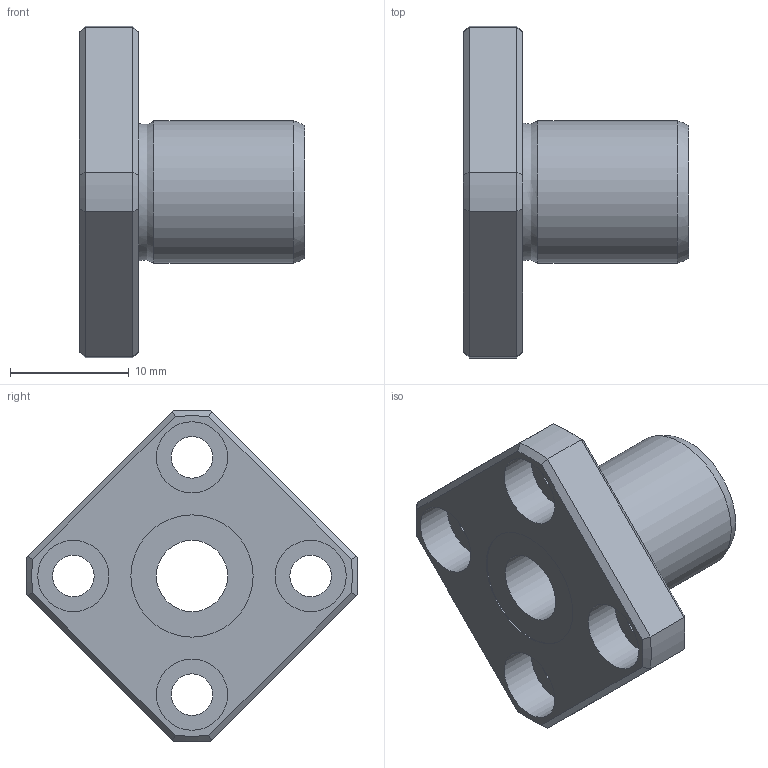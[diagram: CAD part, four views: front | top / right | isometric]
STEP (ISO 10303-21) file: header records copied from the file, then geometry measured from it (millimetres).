
FILE_DESCRIPTION((''),'2;1');
FILE_NAME('D:\製品 (図面)\カタログ用3D\リニアベアリング関連\STEP形式\LFK\LFK6.stp','2010-06-04T08:46:36',('Tsuchiya'),(''),'Autodesk Inventor 10','Autodesk Inventor 10','');
FILE_SCHEMA(('AUTOMOTIVE_DESIGN { 1 0 10303 214 1 1 1 1 }'));
Length unit declared in the file: millimetre
Products named in the file (1): LFK6
Bounding box: 19 x 27.98 x 27.98 mm (x, y, z)
Volume: 2935.4 mm3; surface area: 2382.1 mm2
Topology: 1 solids, 1 shells, 47 faces, 96 edges, 58 vertices
Faces by surface type: plane 21, cylinder 16, cone 8, bspline 2
Full cylindrical faces by diameter (mm): 3.5 x4, 6 x5, 10.3 x2, 12 x1
Entity records: 1297 total; most frequent: CARTESIAN_POINT 324, DIRECTION 200, ORIENTED_EDGE 164, AXIS2_PLACEMENT_3D 88, EDGE_CURVE 82, EDGE_LOOP 78, VERTEX_POINT 58, FACE_OUTER_BOUND 47
